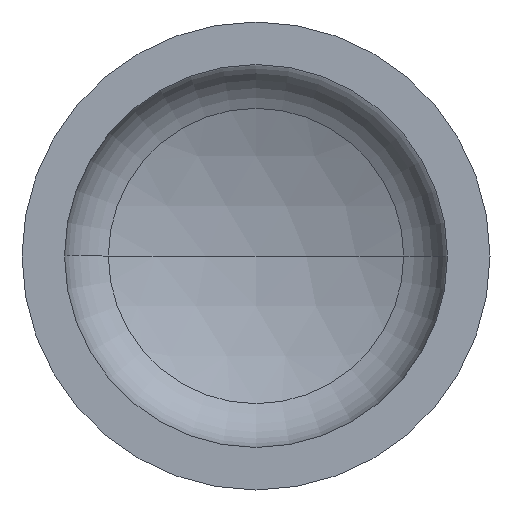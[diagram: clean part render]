
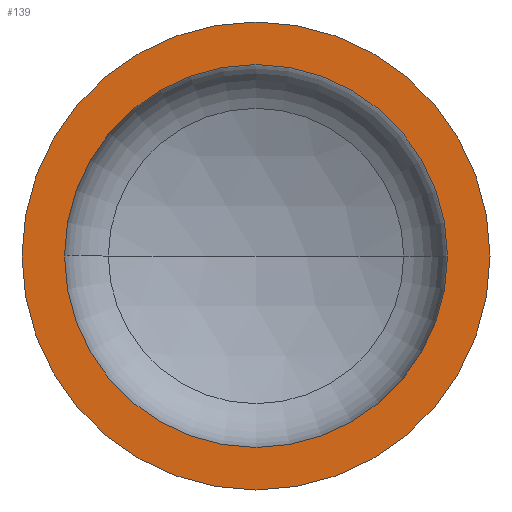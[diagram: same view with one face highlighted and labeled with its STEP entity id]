
A CAD part, front view. The second image highlights one B-rep face of the part: STEP entity #139.
In plain terms, the highlighted planar face has unit normal (0, -1, 0).
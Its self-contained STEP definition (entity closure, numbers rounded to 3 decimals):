
#7 = DIRECTION ( 'NONE',  ( -1., 0., 0. ) ) ;
#13 = ORIENTED_EDGE ( 'NONE', *, *, #210, .T. ) ;
#26 = FACE_BOUND ( 'NONE', #184, .T. ) ;
#30 = DIRECTION ( 'NONE',  ( 0., -1., 0. ) ) ;
#35 = CIRCLE ( 'NONE', #386, 550. ) ;
#56 = DIRECTION ( 'NONE',  ( 1., 0., 0. ) ) ;
#64 = DIRECTION ( 'NONE',  ( 0., 1., 0. ) ) ;
#66 = VERTEX_POINT ( 'NONE', #181 ) ;
#68 = AXIS2_PLACEMENT_3D ( 'NONE', #130, #64, #7 ) ;
#75 = EDGE_LOOP ( 'NONE', ( #13, #331 ) ) ;
#83 = EDGE_CURVE ( 'NONE', #258, #66, #293, .T. ) ;
#91 = CARTESIAN_POINT ( 'NONE',  ( 550., 0., 0. ) ) ;
#100 = DIRECTION ( 'NONE',  ( 0., -1., 0. ) ) ;
#103 = FACE_OUTER_BOUND ( 'NONE', #75, .T. ) ;
#125 = EDGE_CURVE ( 'NONE', #369, #252, #35, .T. ) ;
#130 = CARTESIAN_POINT ( 'NONE',  ( -550., 0., 0. ) ) ;
#139 = ADVANCED_FACE ( 'NONE', ( #26, #103 ), #158, .F. ) ;
#143 = CARTESIAN_POINT ( 'NONE',  ( 0., 0., 0. ) ) ;
#158 = PLANE ( 'NONE',  #68 ) ;
#176 = ORIENTED_EDGE ( 'NONE', *, *, #305, .F. ) ;
#181 = CARTESIAN_POINT ( 'NONE',  ( -450., 0., 0. ) ) ;
#184 = EDGE_LOOP ( 'NONE', ( #300, #176 ) ) ;
#210 = EDGE_CURVE ( 'NONE', #252, #369, #395, .T. ) ;
#215 = AXIS2_PLACEMENT_3D ( 'NONE', #382, #100, #56 ) ;
#224 = CARTESIAN_POINT ( 'NONE',  ( -550., 0., 0. ) ) ;
#248 = CARTESIAN_POINT ( 'NONE',  ( 0., 0., 0. ) ) ;
#250 = DIRECTION ( 'NONE',  ( 1., 0., 0. ) ) ;
#252 = VERTEX_POINT ( 'NONE', #91 ) ;
#253 = CARTESIAN_POINT ( 'NONE',  ( 450., 0., 0. ) ) ;
#258 = VERTEX_POINT ( 'NONE', #253 ) ;
#280 = DIRECTION ( 'NONE',  ( 0., -1., 0. ) ) ;
#282 = CARTESIAN_POINT ( 'NONE',  ( 0., 0., 0. ) ) ;
#283 = AXIS2_PLACEMENT_3D ( 'NONE', #248, #398, #296 ) ;
#288 = DIRECTION ( 'NONE',  ( 1., 0., 0. ) ) ;
#293 = CIRCLE ( 'NONE', #336, 450. ) ;
#296 = DIRECTION ( 'NONE',  ( 1., 0., 0. ) ) ;
#300 = ORIENTED_EDGE ( 'NONE', *, *, #83, .F. ) ;
#305 = EDGE_CURVE ( 'NONE', #66, #258, #312, .T. ) ;
#312 = CIRCLE ( 'NONE', #283, 450. ) ;
#331 = ORIENTED_EDGE ( 'NONE', *, *, #125, .T. ) ;
#336 = AXIS2_PLACEMENT_3D ( 'NONE', #282, #280, #288 ) ;
#369 = VERTEX_POINT ( 'NONE', #224 ) ;
#382 = CARTESIAN_POINT ( 'NONE',  ( 0., 0., 0. ) ) ;
#386 = AXIS2_PLACEMENT_3D ( 'NONE', #143, #30, #250 ) ;
#395 = CIRCLE ( 'NONE', #215, 550. ) ;
#398 = DIRECTION ( 'NONE',  ( 0., -1., 0. ) ) ;
